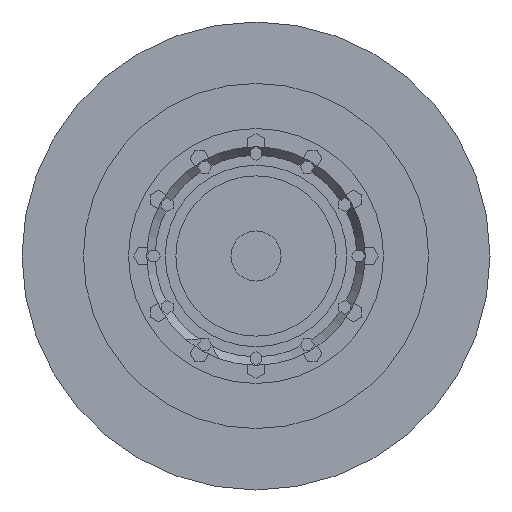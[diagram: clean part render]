
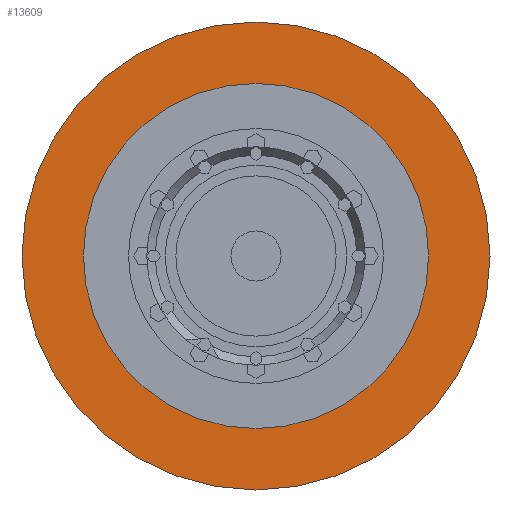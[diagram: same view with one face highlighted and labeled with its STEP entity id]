
A CAD part, left-side view. The second image highlights one B-rep face of the part: STEP entity #13609.
In plain terms, the highlighted planar face has unit normal (-1, 0, 0).
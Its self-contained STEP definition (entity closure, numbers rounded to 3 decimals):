
#13406=CARTESIAN_POINT('',(-46.,0.,0.));
#13407=DIRECTION('',(-1.,0.,0.));
#13408=DIRECTION('',(0.,1.,0.));
#13409=AXIS2_PLACEMENT_3D('',#13406,#13407,#13408);
#13411=CARTESIAN_POINT('',(-46.,0.,0.));
#13412=DIRECTION('',(1.,0.,0.));
#13413=DIRECTION('',(0.,1.,0.));
#13414=AXIS2_PLACEMENT_3D('',#13411,#13412,#13413);
#13416=CARTESIAN_POINT('',(-46.,0.,0.));
#13417=DIRECTION('',(1.,0.,0.));
#13418=DIRECTION('',(0.,1.,0.));
#13419=AXIS2_PLACEMENT_3D('',#13416,#13417,#13418);
#13429=CARTESIAN_POINT('',(-46.,0.,0.));
#13430=DIRECTION('',(-1.,0.,0.));
#13431=DIRECTION('',(0.,1.,0.));
#13432=AXIS2_PLACEMENT_3D('',#13429,#13430,#13431);
#13452=CARTESIAN_POINT('',(-46.,189.6,0.));
#13454=VERTEX_POINT('',#13452);
#13464=CARTESIAN_POINT('',(-46.,-189.6,0.));
#13466=VERTEX_POINT('',#13464);
#13469=CARTESIAN_POINT('',(-46.,257.,0.));
#13471=VERTEX_POINT('',#13469);
#13473=CARTESIAN_POINT('',(-46.,-257.,0.));
#13475=VERTEX_POINT('',#13473);
#13594=CARTESIAN_POINT('',(-46.,0.,0.));
#13595=DIRECTION('',(1.,0.,0.));
#13596=DIRECTION('',(0.,-1.,0.));
#13597=AXIS2_PLACEMENT_3D('',#13594,#13595,#13596);
#13598=PLANE('',#13597);
#13599=ORIENTED_EDGE('',*,*,#13587,.F.);
#13600=ORIENTED_EDGE('',*,*,#13576,.T.);
#13601=EDGE_LOOP('',(#13599,#13600));
#13602=FACE_OUTER_BOUND('',#13601,.F.);
#13604=ORIENTED_EDGE('',*,*,#13603,.F.);
#13606=ORIENTED_EDGE('',*,*,#13605,.T.);
#13607=EDGE_LOOP('',(#13604,#13606));
#13608=FACE_BOUND('',#13607,.F.);
#13609=ADVANCED_FACE('',(#13602,#13608),#13598,.F.);
#13410=CIRCLE('',#13409,257.);
#13415=CIRCLE('',#13414,257.);
#13420=CIRCLE('',#13419,189.6);
#13433=CIRCLE('',#13432,189.6);
#13576=EDGE_CURVE('',#13471,#13475,#13415,.T.);
#13587=EDGE_CURVE('',#13471,#13475,#13410,.T.);
#13603=EDGE_CURVE('',#13454,#13466,#13420,.T.);
#13605=EDGE_CURVE('',#13454,#13466,#13433,.T.);
